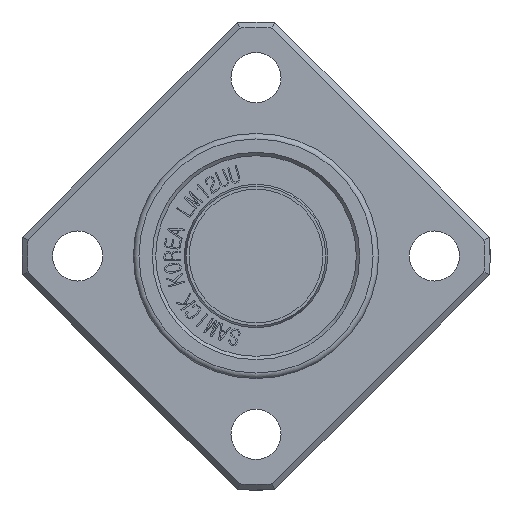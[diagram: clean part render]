
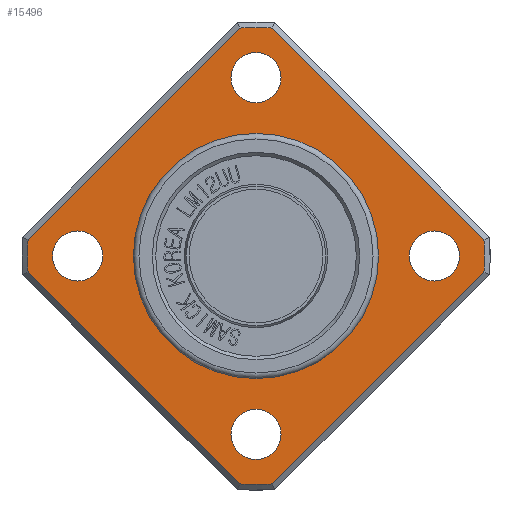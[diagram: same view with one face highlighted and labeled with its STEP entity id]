
A CAD part, front view. The second image highlights one B-rep face of the part: STEP entity #15496.
In plain terms, the highlighted planar face has unit normal (0, -1, 0).
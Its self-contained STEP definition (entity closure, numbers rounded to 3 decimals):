
#2170=FACE_BOUND('',#3187,.T.);
#2171=FACE_BOUND('',#3188,.T.);
#2172=FACE_BOUND('',#3189,.T.);
#2173=FACE_BOUND('',#3190,.T.);
#2174=FACE_BOUND('',#3191,.T.);
#2234=CIRCLE('',#16375,20.5);
#2235=CIRCLE('',#16376,20.5);
#2236=CIRCLE('',#16377,20.5);
#2237=CIRCLE('',#16378,20.5);
#2238=CIRCLE('',#16379,2.25);
#2239=CIRCLE('',#16380,2.25);
#2240=CIRCLE('',#16381,2.25);
#2241=CIRCLE('',#16382,2.25);
#2242=CIRCLE('',#16383,11.);
#2243=CIRCLE('',#16384,11.);
#2330=FACE_OUTER_BOUND('',#3186,.T.);
#3186=EDGE_LOOP('',(#10448,#10449,#10450,#10451,#10452,#10453,#10454,#10455));
#3187=EDGE_LOOP('',(#10456));
#3188=EDGE_LOOP('',(#10457));
#3189=EDGE_LOOP('',(#10458));
#3190=EDGE_LOOP('',(#10459));
#3191=EDGE_LOOP('',(#10460,#10461));
#4105=LINE('',#18628,#5255);
#4106=LINE('',#18636,#5256);
#4107=LINE('',#18640,#5257);
#4108=LINE('',#18644,#5258);
#5255=VECTOR('',#16745,10.);
#5256=VECTOR('',#16750,10.);
#5257=VECTOR('',#16753,10.);
#5258=VECTOR('',#16756,10.);
#6424=VERTEX_POINT('',#18623);
#6425=VERTEX_POINT('',#18627);
#6426=VERTEX_POINT('',#18633);
#6427=VERTEX_POINT('',#18635);
#6428=VERTEX_POINT('',#18637);
#6429=VERTEX_POINT('',#18639);
#6430=VERTEX_POINT('',#18641);
#6431=VERTEX_POINT('',#18643);
#6432=VERTEX_POINT('',#18646);
#6433=VERTEX_POINT('',#18648);
#6434=VERTEX_POINT('',#18650);
#6435=VERTEX_POINT('',#18652);
#6436=VERTEX_POINT('',#18654);
#6437=VERTEX_POINT('',#18655);
#8035=EDGE_CURVE('',#6424,#6425,#4105,.T.);
#8037=EDGE_CURVE('',#6424,#6426,#2234,.T.);
#8038=EDGE_CURVE('',#6427,#6426,#4106,.T.);
#8039=EDGE_CURVE('',#6427,#6428,#2235,.T.);
#8040=EDGE_CURVE('',#6429,#6428,#4107,.T.);
#8041=EDGE_CURVE('',#6429,#6430,#2236,.T.);
#8042=EDGE_CURVE('',#6431,#6430,#4108,.T.);
#8043=EDGE_CURVE('',#6431,#6425,#2237,.T.);
#8044=EDGE_CURVE('',#6432,#6432,#2238,.T.);
#8045=EDGE_CURVE('',#6433,#6433,#2239,.T.);
#8046=EDGE_CURVE('',#6434,#6434,#2240,.T.);
#8047=EDGE_CURVE('',#6435,#6435,#2241,.T.);
#8048=EDGE_CURVE('',#6436,#6437,#2242,.T.);
#8049=EDGE_CURVE('',#6437,#6436,#2243,.T.);
#10448=ORIENTED_EDGE('',*,*,#8035,.F.);
#10449=ORIENTED_EDGE('',*,*,#8037,.T.);
#10450=ORIENTED_EDGE('',*,*,#8038,.F.);
#10451=ORIENTED_EDGE('',*,*,#8039,.T.);
#10452=ORIENTED_EDGE('',*,*,#8040,.F.);
#10453=ORIENTED_EDGE('',*,*,#8041,.T.);
#10454=ORIENTED_EDGE('',*,*,#8042,.F.);
#10455=ORIENTED_EDGE('',*,*,#8043,.T.);
#10456=ORIENTED_EDGE('',*,*,#8044,.T.);
#10457=ORIENTED_EDGE('',*,*,#8045,.T.);
#10458=ORIENTED_EDGE('',*,*,#8046,.T.);
#10459=ORIENTED_EDGE('',*,*,#8047,.T.);
#10460=ORIENTED_EDGE('',*,*,#8048,.F.);
#10461=ORIENTED_EDGE('',*,*,#8049,.F.);
#15251=PLANE('',#16374);
#15496=ADVANCED_FACE('',(#2330,#2170,#2171,#2172,#2173,#2174),#15251,.T.);
#16374=AXIS2_PLACEMENT_3D('',#18632,#16746,#16747);
#16375=AXIS2_PLACEMENT_3D('',#18634,#16748,#16749);
#16376=AXIS2_PLACEMENT_3D('',#18638,#16751,#16752);
#16377=AXIS2_PLACEMENT_3D('',#18642,#16754,#16755);
#16378=AXIS2_PLACEMENT_3D('',#18645,#16757,#16758);
#16379=AXIS2_PLACEMENT_3D('',#18647,#16759,#16760);
#16380=AXIS2_PLACEMENT_3D('',#18649,#16761,#16762);
#16381=AXIS2_PLACEMENT_3D('',#18651,#16763,#16764);
#16382=AXIS2_PLACEMENT_3D('',#18653,#16765,#16766);
#16383=AXIS2_PLACEMENT_3D('',#18656,#16767,#16768);
#16384=AXIS2_PLACEMENT_3D('',#18657,#16769,#16770);
#16745=DIRECTION('',(0.707,0.,0.707));
#16746=DIRECTION('center_axis',(0.,-1.,0.));
#16747=DIRECTION('ref_axis',(0.,0.,-1.));
#16748=DIRECTION('center_axis',(0.,-1.,0.));
#16749=DIRECTION('ref_axis',(1.,0.,0.));
#16750=DIRECTION('',(-0.707,0.,0.707));
#16751=DIRECTION('center_axis',(0.,-1.,0.));
#16752=DIRECTION('ref_axis',(1.,0.,0.));
#16753=DIRECTION('',(-0.707,0.,-0.707));
#16754=DIRECTION('center_axis',(0.,-1.,0.));
#16755=DIRECTION('ref_axis',(1.,0.,0.));
#16756=DIRECTION('',(0.707,0.,-0.707));
#16757=DIRECTION('center_axis',(0.,-1.,0.));
#16758=DIRECTION('ref_axis',(1.,0.,0.));
#16759=DIRECTION('center_axis',(0.,1.,0.));
#16760=DIRECTION('ref_axis',(0.,0.,
1.));
#16761=DIRECTION('center_axis',(0.,1.,0.));
#16762=DIRECTION('ref_axis',(-1.,0.,0.));
#16763=DIRECTION('center_axis',(0.,1.,0.));
#16764=DIRECTION('ref_axis',(0.,0.,
-1.));
#16765=DIRECTION('center_axis',(0.,1.,0.));
#16766=DIRECTION('ref_axis',(1.,0.,0.));
#16767=DIRECTION('center_axis',(0.,-1.,0.));
#16768=DIRECTION('ref_axis',(1.,0.,0.));
#16769=DIRECTION('center_axis',(0.,-1.,0.));
#16770=DIRECTION('ref_axis',(1.,0.,0.));
#18623=CARTESIAN_POINT('',(-20.447,10.,1.473));
#18627=CARTESIAN_POINT('',(-1.473,10.,20.447));
#18628=CARTESIAN_POINT('',(-3.401,10.,18.519));
#18632=CARTESIAN_POINT('Origin',(11.,10.,0.));
#18633=CARTESIAN_POINT('',(-20.447,10.,-1.473));
#18634=CARTESIAN_POINT('Origin',(0.,10.,0.));
#18635=CARTESIAN_POINT('',(-1.473,10.,-20.447));
#18636=CARTESIAN_POINT('',(-13.019,10.,-8.901));
#18637=CARTESIAN_POINT('',(1.473,10.,-20.447));
#18638=CARTESIAN_POINT('Origin',(0.,10.,0.));
#18639=CARTESIAN_POINT('',(20.447,10.,-1.473));
#18640=CARTESIAN_POINT('',(8.901,10.,-13.019));
#18641=CARTESIAN_POINT('',(20.447,10.,1.473));
#18642=CARTESIAN_POINT('Origin',(0.,10.,0.));
#18643=CARTESIAN_POINT('',(1.473,10.,20.447));
#18644=CARTESIAN_POINT('',(18.519,10.,3.401));
#18645=CARTESIAN_POINT('Origin',(0.,10.,0.));
#18646=CARTESIAN_POINT('',(0.,10.,13.75));
#18647=CARTESIAN_POINT('Origin',(0.,10.,16.));
#18648=CARTESIAN_POINT('',(-13.75,10.,0.));
#18649=CARTESIAN_POINT('Origin',(-16.,10.,0.));
#18650=CARTESIAN_POINT('',(0.,10.,-13.75));
#18651=CARTESIAN_POINT('Origin',(0.,10.,-16.));
#18652=CARTESIAN_POINT('',(13.75,10.,0.));
#18653=CARTESIAN_POINT('Origin',(16.,10.,0.));
#18654=CARTESIAN_POINT('',(11.,10.,0.));
#18655=CARTESIAN_POINT('',(-11.,10.,0.));
#18656=CARTESIAN_POINT('Origin',(0.,10.,0.));
#18657=CARTESIAN_POINT('Origin',(0.,10.,0.));
